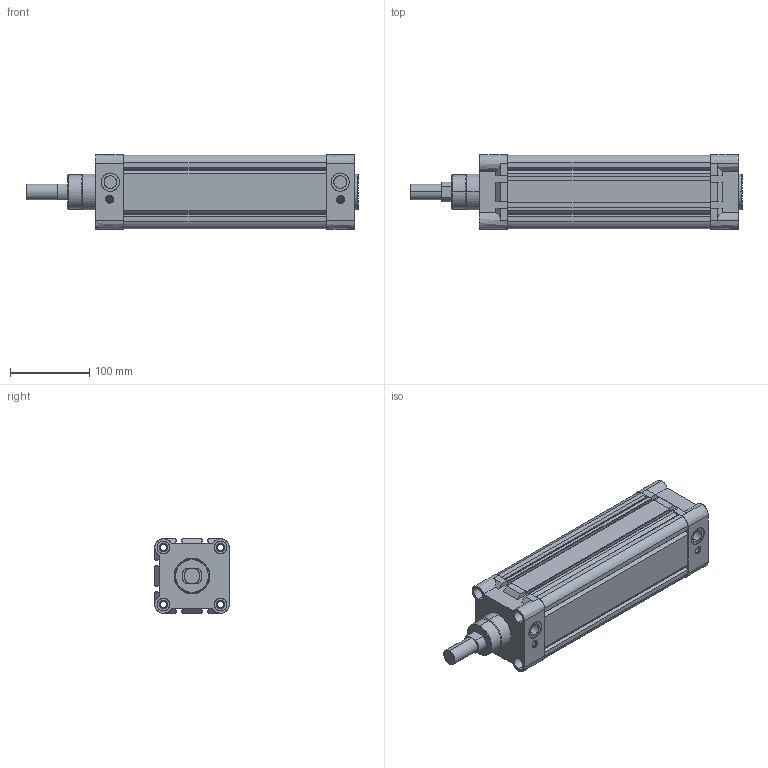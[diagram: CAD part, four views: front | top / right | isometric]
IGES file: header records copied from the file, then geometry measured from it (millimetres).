
Start section: SolidWorks IGES file using analytic representation for surfaces
Global section: file name: D:\ARICA 3D ÇÝZÝMLER\3D IGES\DNCAT-S DÖNMEZ MÝLLÝ SERÝSÝ\DNCAT-S 80\DNCAT-S-80x200CYLINDER.IGS; native system: SolidWorks 2013; preprocessor: SolidWorks 2013; author: user; date: 161219.101013; units: millimetre
Bounding box: 419 x 94 x 94 mm (x, y, z)
Surface area: 350701.3 mm2 (no closed solid volume)
Topology: 0 solids, 0 shells, 321 faces, 5132 edges, 5130 vertices
Faces by surface type: bspline 195, revolution 126
